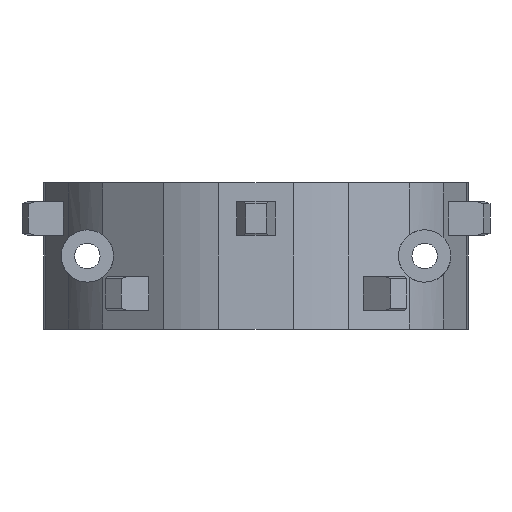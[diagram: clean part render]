
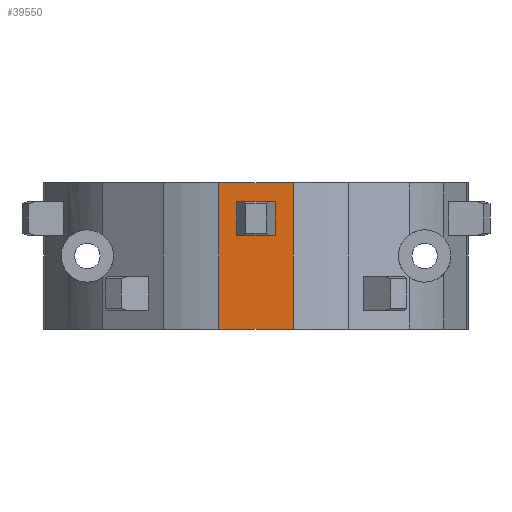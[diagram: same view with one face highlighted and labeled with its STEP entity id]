
A CAD part, front view. The second image highlights one B-rep face of the part: STEP entity #39550.
In plain terms, the highlighted planar face has unit normal (0, -1, 0) as drawn and (0, 1, 0) by its records, which use the part's own axes.
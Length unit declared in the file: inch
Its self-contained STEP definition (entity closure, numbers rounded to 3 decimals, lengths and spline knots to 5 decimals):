
#24538=DIRECTION('',(1.,0.,0.));
#24539=VECTOR('',#24538,1.);
#24540=CARTESIAN_POINT('',(-0.5,2.78827,-0.975));
#24541=LINE('',#24540,#24539);
#27348=DIRECTION('',(1.,0.,0.));
#27349=VECTOR('',#27348,1.);
#27350=CARTESIAN_POINT('',(-0.5,2.78827,0.975));
#27351=LINE('',#27350,#27349);
#28333=DIRECTION('',(-1.,0.,0.));
#28334=VECTOR('',#28333,0.51);
#28335=CARTESIAN_POINT('',(0.255,2.78827,0.725));
#28336=LINE('',#28335,#28334);
#28337=DIRECTION('',(0.,0.,1.));
#28338=VECTOR('',#28337,0.45);
#28339=CARTESIAN_POINT('',(0.255,2.78827,0.275));
#28340=LINE('',#28339,#28338);
#28341=DIRECTION('',(-1.,0.,0.));
#28342=VECTOR('',#28341,0.51);
#28343=CARTESIAN_POINT('',(0.255,2.78827,0.275));
#28344=LINE('',#28343,#28342);
#28345=DIRECTION('',(0.,0.,1.));
#28346=VECTOR('',#28345,0.45);
#28347=CARTESIAN_POINT('',(-0.255,2.78827,0.275));
#28348=LINE('',#28347,#28346);
#28349=DIRECTION('',(0.,0.,1.));
#28350=VECTOR('',#28349,1.95);
#28351=CARTESIAN_POINT('',(-0.5,2.78827,-0.975));
#28352=LINE('',#28351,#28350);
#28353=DIRECTION('',(0.,0.,1.));
#28354=VECTOR('',#28353,1.95);
#28355=CARTESIAN_POINT('',(0.5,2.78827,-0.975));
#28356=LINE('',#28355,#28354);
#33790=CARTESIAN_POINT('',(0.255,2.78827,0.725));
#33791=CARTESIAN_POINT('',(-0.255,2.78827,0.725));
#33792=VERTEX_POINT('',#33790);
#33793=VERTEX_POINT('',#33791);
#33794=CARTESIAN_POINT('',(0.255,2.78827,0.275));
#33795=CARTESIAN_POINT('',(-0.255,2.78827,0.275));
#33796=VERTEX_POINT('',#33794);
#33797=VERTEX_POINT('',#33795);
#33830=CARTESIAN_POINT('',(-0.5,2.78827,-0.975));
#33831=CARTESIAN_POINT('',(-0.5,2.78827,0.975));
#33832=VERTEX_POINT('',#33830);
#33833=VERTEX_POINT('',#33831);
#33834=CARTESIAN_POINT('',(0.5,2.78827,-0.975));
#33835=CARTESIAN_POINT('',(0.5,2.78827,0.975));
#33836=VERTEX_POINT('',#33834);
#33837=VERTEX_POINT('',#33835);
#39528=CARTESIAN_POINT('',(-1.5,2.78827,1.17));
#39529=DIRECTION('',(0.,-1.,0.));
#39530=DIRECTION('',(1.,0.,0.));
#39531=AXIS2_PLACEMENT_3D('',#39528,#39529,#39530);
#39532=PLANE('',#39531);
#39533=ORIENTED_EDGE('',*,*,#39521,.F.);
#39534=ORIENTED_EDGE('',*,*,#36589,.T.);
#39536=ORIENTED_EDGE('',*,*,#39535,.T.);
#39537=ORIENTED_EDGE('',*,*,#38493,.F.);
#39538=EDGE_LOOP('',(#39533,#39534,#39536,#39537));
#39539=FACE_OUTER_BOUND('',#39538,.F.);
#39541=ORIENTED_EDGE('',*,*,#39540,.F.);
#39543=ORIENTED_EDGE('',*,*,#39542,.F.);
#39545=ORIENTED_EDGE('',*,*,#39544,.T.);
#39547=ORIENTED_EDGE('',*,*,#39546,.T.);
#39548=EDGE_LOOP('',(#39541,#39543,#39545,#39547));
#39549=FACE_BOUND('',#39548,.F.);
#39550=ADVANCED_FACE('',(#39539,#39549),#39532,.F.);
#36589=EDGE_CURVE('',#33832,#33836,#24541,.T.);
#38493=EDGE_CURVE('',#33833,#33837,#27351,.T.);
#39521=EDGE_CURVE('',#33832,#33833,#28352,.T.);
#39535=EDGE_CURVE('',#33836,#33837,#28356,.T.);
#39540=EDGE_CURVE('',#33792,#33793,#28336,.T.);
#39542=EDGE_CURVE('',#33796,#33792,#28340,.T.);
#39544=EDGE_CURVE('',#33796,#33797,#28344,.T.);
#39546=EDGE_CURVE('',#33797,#33793,#28348,.T.);
